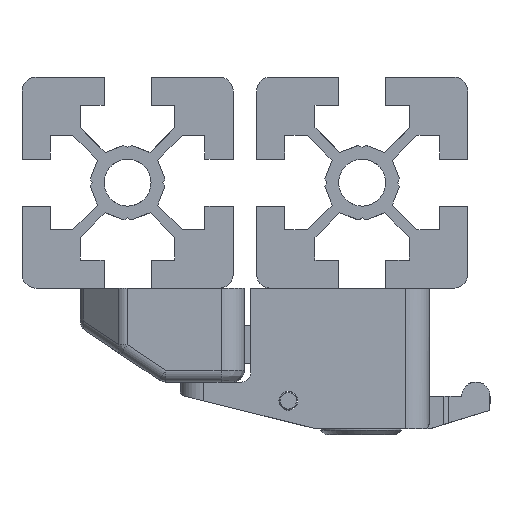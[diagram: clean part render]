
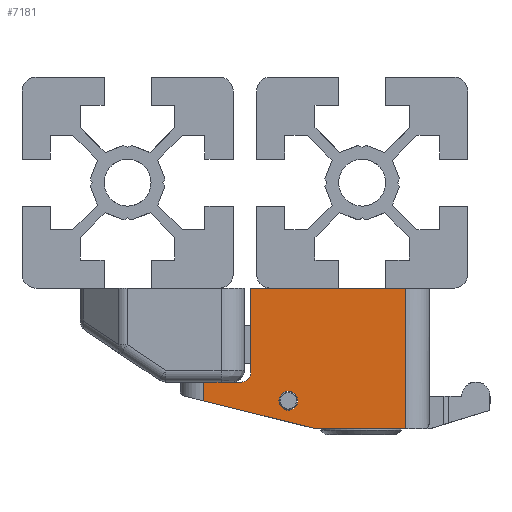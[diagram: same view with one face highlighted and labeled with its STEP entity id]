
A CAD part, left-side view. The second image highlights one B-rep face of the part: STEP entity #7181.
In plain terms, the highlighted planar face has unit normal (-1, 0, 0).
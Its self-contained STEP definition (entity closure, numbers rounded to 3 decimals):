
#36 = ORIENTED_EDGE ( 'NONE', *, *, #384, .F. ) ;
#64 = LINE ( 'NONE', #9239, #8655 ) ;
#221 = VERTEX_POINT ( 'NONE', #4412 ) ;
#324 = CARTESIAN_POINT ( 'NONE',  ( -37.5, -9.512, -20. ) ) ;
#384 = EDGE_CURVE ( 'NONE', #10009, #12680, #9230, .T. ) ;
#614 = EDGE_CURVE ( 'NONE', #8904, #12249, #12040, .T. ) ;
#777 = ORIENTED_EDGE ( 'NONE', *, *, #5507, .F. ) ;
#899 = CIRCLE ( 'NONE', #11181, 2.002 ) ;
#1190 = VERTEX_POINT ( 'NONE', #1671 ) ;
#1604 = EDGE_CURVE ( 'NONE', #2307, #3608, #12686, .T. ) ;
#1671 = CARTESIAN_POINT ( 'NONE',  ( -37.5, -33.465, -30. ) ) ;
#1696 = DIRECTION ( 'NONE',  ( -1., 0., 0. ) ) ;
#2051 = LINE ( 'NONE', #5503, #7847 ) ;
#2307 = VERTEX_POINT ( 'NONE', #5661 ) ;
#2475 = CARTESIAN_POINT ( 'NONE',  ( -37.5, -18.444, 0. ) ) ;
#2711 = LINE ( 'NONE', #2475, #6509 ) ;
#2807 = DIRECTION ( 'NONE',  ( 0., 0., 1. ) ) ;
#2939 = EDGE_CURVE ( 'NONE', #12769, #6201, #2051, .T. ) ;
#3184 = EDGE_CURVE ( 'NONE', #3608, #2307, #899, .T. ) ;
#3226 = EDGE_CURVE ( 'NONE', #221, #11603, #12307, .T. ) ;
#3242 = EDGE_LOOP ( 'NONE', ( #777, #36, #3434, #7881, #5040, #5792, #8659, #4147, #5959 ) ) ;
#3434 = ORIENTED_EDGE ( 'NONE', *, *, #8214, .F. ) ;
#3561 = DIRECTION ( 'NONE',  ( 0., -1., 0. ) ) ;
#3608 = VERTEX_POINT ( 'NONE', #8563 ) ;
#3770 = DIRECTION ( 'NONE',  ( -1., 0., 0. ) ) ;
#4147 = ORIENTED_EDGE ( 'NONE', *, *, #9324, .F. ) ;
#4152 = DIRECTION ( 'NONE',  ( 1., 0., 0. ) ) ;
#4355 = VECTOR ( 'NONE', #12321, 1000. ) ;
#4412 = CARTESIAN_POINT ( 'NONE',  ( -37.5, -52.514, 0. ) ) ;
#4437 = VECTOR ( 'NONE', #7790, 1000. ) ;
#4593 = DIRECTION ( 'NONE',  ( 0., 0.97, 0.242 ) ) ;
#5013 = DIRECTION ( 'NONE',  ( 0., 0., 1. ) ) ;
#5040 = ORIENTED_EDGE ( 'NONE', *, *, #3226, .F. ) ;
#5136 = FACE_BOUND ( 'NONE', #6987, .T. ) ;
#5503 = CARTESIAN_POINT ( 'NONE',  ( -37.5, -31.012, -20. ) ) ;
#5507 = EDGE_CURVE ( 'NONE', #12680, #12769, #64, .T. ) ;
#5661 = CARTESIAN_POINT ( 'NONE',  ( -37.5, -27.514, -25.999 ) ) ;
#5792 = ORIENTED_EDGE ( 'NONE', *, *, #11569, .F. ) ;
#5959 = ORIENTED_EDGE ( 'NONE', *, *, #2939, .F. ) ;
#6121 = CARTESIAN_POINT ( 'NONE',  ( -37.5, -9.512, -24.028 ) ) ;
#6201 = VERTEX_POINT ( 'NONE', #11586 ) ;
#6265 = AXIS2_PLACEMENT_3D ( 'NONE', #9649, #4152, #11554 ) ;
#6509 = VECTOR ( 'NONE', #3561, 1000. ) ;
#6987 = EDGE_LOOP ( 'NONE', ( #9672, #10105 ) ) ;
#7181 = ADVANCED_FACE ( 'NONE', ( #5136, #12924 ), #7397, .F. ) ;
#7248 = DIRECTION ( 'NONE',  ( 0., 0., -1. ) ) ;
#7397 = PLANE ( 'NONE',  #6265 ) ;
#7410 = VECTOR ( 'NONE', #5013, 1000. ) ;
#7531 = VECTOR ( 'NONE', #10167, 1000. ) ;
#7790 = DIRECTION ( 'NONE',  ( 0., 0., 1. ) ) ;
#7831 = CARTESIAN_POINT ( 'NONE',  ( -37.5, -33.465, -30. ) ) ;
#7847 = VECTOR ( 'NONE', #12951, 1000. ) ;
#7881 = ORIENTED_EDGE ( 'NONE', *, *, #10415, .F. ) ;
#8039 = CARTESIAN_POINT ( 'NONE',  ( -37.5, -31.012, -30. ) ) ;
#8147 = CARTESIAN_POINT ( 'NONE',  ( -37.5, -19.514, -10. ) ) ;
#8214 = EDGE_CURVE ( 'NONE', #1190, #10009, #10387, .T. ) ;
#8257 = DIRECTION ( 'NONE',  ( -1., 0., 0. ) ) ;
#8410 = VECTOR ( 'NONE', #4593, 1000. ) ;
#8465 = AXIS2_PLACEMENT_3D ( 'NONE', #11392, #8257, #7248 ) ;
#8563 = CARTESIAN_POINT ( 'NONE',  ( -37.5, -27.514, -21.996 ) ) ;
#8655 = VECTOR ( 'NONE', #12258, 1000. ) ;
#8659 = ORIENTED_EDGE ( 'NONE', *, *, #614, .F. ) ;
#8904 = VERTEX_POINT ( 'NONE', #10205 ) ;
#8913 = CARTESIAN_POINT ( 'NONE',  ( -37.5, -19.514, 0. ) ) ;
#9165 = CARTESIAN_POINT ( 'NONE',  ( -37.5, -13.19, -20. ) ) ;
#9230 = LINE ( 'NONE', #13132, #4437 ) ;
#9239 = CARTESIAN_POINT ( 'NONE',  ( -37.5, -31.012, -20. ) ) ;
#9324 = EDGE_CURVE ( 'NONE', #6201, #8904, #9857, .T. ) ;
#9649 = CARTESIAN_POINT ( 'NONE',  ( -37.5, -31.012, 0. ) ) ;
#9672 = ORIENTED_EDGE ( 'NONE', *, *, #3184, .F. ) ;
#9857 = CIRCLE ( 'NONE', #8465, 2. ) ;
#10009 = VERTEX_POINT ( 'NONE', #6121 ) ;
#10105 = ORIENTED_EDGE ( 'NONE', *, *, #1604, .F. ) ;
#10140 = CARTESIAN_POINT ( 'NONE',  ( -37.5, -52.514, -30. ) ) ;
#10167 = DIRECTION ( 'NONE',  ( 0., 1., 0. ) ) ;
#10205 = CARTESIAN_POINT ( 'NONE',  ( -37.5, -19.514, -18. ) ) ;
#10387 = LINE ( 'NONE', #7831, #8410 ) ;
#10415 = EDGE_CURVE ( 'NONE', #11603, #1190, #11666, .T. ) ;
#11033 = CARTESIAN_POINT ( 'NONE',  ( -37.5, -27.514, -23.998 ) ) ;
#11099 = CARTESIAN_POINT ( 'NONE',  ( -37.5, -52.514, -30. ) ) ;
#11181 = AXIS2_PLACEMENT_3D ( 'NONE', #13228, #1696, #2807 ) ;
#11392 = CARTESIAN_POINT ( 'NONE',  ( -37.5, -17.514, -18. ) ) ;
#11554 = DIRECTION ( 'NONE',  ( 0., 0., -1. ) ) ;
#11569 = EDGE_CURVE ( 'NONE', #12249, #221, #2711, .T. ) ;
#11586 = CARTESIAN_POINT ( 'NONE',  ( -37.5, -17.514, -20. ) ) ;
#11603 = VERTEX_POINT ( 'NONE', #11099 ) ;
#11666 = LINE ( 'NONE', #8039, #7531 ) ;
#12040 = LINE ( 'NONE', #8147, #7410 ) ;
#12188 = DIRECTION ( 'NONE',  ( 0., 0., 1. ) ) ;
#12249 = VERTEX_POINT ( 'NONE', #8913 ) ;
#12258 = DIRECTION ( 'NONE',  ( 0., -1., 0. ) ) ;
#12307 = LINE ( 'NONE', #10140, #4355 ) ;
#12321 = DIRECTION ( 'NONE',  ( 0., 0., -1. ) ) ;
#12505 = AXIS2_PLACEMENT_3D ( 'NONE', #11033, #3770, #12188 ) ;
#12680 = VERTEX_POINT ( 'NONE', #324 ) ;
#12686 = CIRCLE ( 'NONE', #12505, 2.002 ) ;
#12769 = VERTEX_POINT ( 'NONE', #9165 ) ;
#12924 = FACE_OUTER_BOUND ( 'NONE', #3242, .T. ) ;
#12951 = DIRECTION ( 'NONE',  ( 0., -1., 0. ) ) ;
#13132 = CARTESIAN_POINT ( 'NONE',  ( -37.5, -9.512, 0. ) ) ;
#13228 = CARTESIAN_POINT ( 'NONE',  ( -37.5, -27.514, -23.998 ) ) ;
